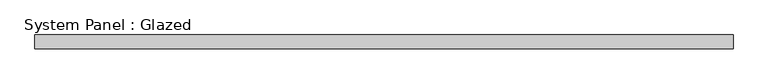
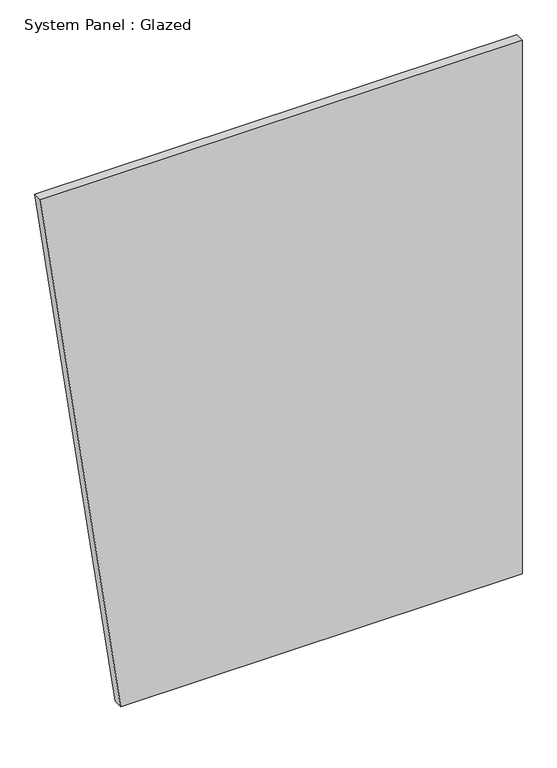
"""IFC4 building model written with IfcOpenShell, lengths in millimetres: plate geometry, System Panel : Glazed."""

from ifc_helpers import new_model, si_unit, frame, origin, place, context, project, spatial, polyline, outline, extrude, source, transform, mapped, element, save


def system_panel_glazed_aa88bed7(model_context):
    return source(origin(), model_context, "Body", "SweptSolid", [
        extrude(outline(polyline([(0.0, -434.0907104), (0.0, 651.1360655), (1524.0, 651.1360655), (1524.0, -651.1360655), (0.0, -434.0907104)])), frame((0.0, 19.05, 0.0), z_axis=(0.0, 1.0, 0.0), x_axis=(0.0, 0.0, 1.0)), (0.0, 0.0, 1.0), 25.4),
    ])


if __name__ == "__main__":
    model = new_model("IFC4")
    model_context = context("Model", 3, world=origin())
    ifc_project = project(units=[si_unit("LENGTHUNIT", "METRE", prefix="MILLI")], contexts=[model_context])
    site = spatial("IfcSite", under=ifc_project)
    building = spatial("IfcBuilding", under=site)
    placement = place(None, origin())
    system_panel_glazed_shape = system_panel_glazed_aa88bed7(model_context)
    element("IfcPlate", 1, ObjectType="System Panel : Glazed", at=placement, inside=building, context=model_context, shape_type="MappedRepresentation", body=[
        mapped(system_panel_glazed_shape, transform((0.0, 0.0, 0.0), x_axis=(1.0, 0.0, 0.0), y_axis=(0.0, 1.0, 0.0), z_axis=(0.0, 0.0, 1.0))),
    ])
    save(model, "model.ifc")
